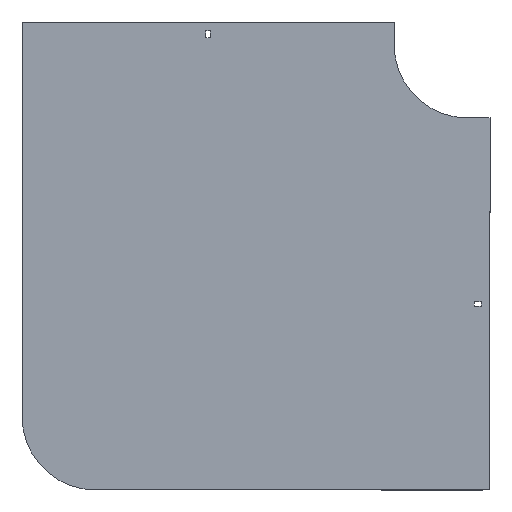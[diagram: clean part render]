
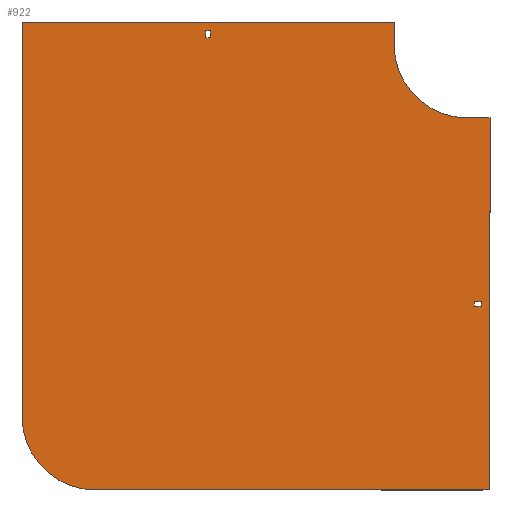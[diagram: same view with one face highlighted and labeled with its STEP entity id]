
A CAD part, front view. The second image highlights one B-rep face of the part: STEP entity #922.
In plain terms, the highlighted planar face has unit normal (0, -1, 0).
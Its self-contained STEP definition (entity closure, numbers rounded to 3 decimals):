
#38 = ORIENTED_EDGE ( 'NONE', *, *, #1521, .F. ) ;
#41 = FACE_BOUND ( 'NONE', #1241, .T. ) ;
#52 = DIRECTION ( 'NONE',  ( 1., 0., 0. ) ) ;
#53 = VECTOR ( 'NONE', #1593, 1000. ) ;
#62 = DIRECTION ( 'NONE',  ( 1., 0., 0. ) ) ;
#82 = AXIS2_PLACEMENT_3D ( 'NONE', #1418, #337, #828 ) ;
#103 = EDGE_CURVE ( 'NONE', #569, #1319, #1432, .T. ) ;
#109 = DIRECTION ( 'NONE',  ( -1., 0., 0. ) ) ;
#128 = CARTESIAN_POINT ( 'NONE',  ( 18., 0., -355.25 ) ) ;
#147 = VECTOR ( 'NONE', #52, 1000. ) ;
#156 = ORIENTED_EDGE ( 'NONE', *, *, #1800, .F. ) ;
#191 = CARTESIAN_POINT ( 'NONE',  ( 9., 0., -348.75 ) ) ;
#199 = LINE ( 'NONE', #1882, #838 ) ;
#211 = VECTOR ( 'NONE', #1537, 1000. ) ;
#214 = CARTESIAN_POINT ( 'NONE',  ( 9., 0., -355.25 ) ) ;
#221 = VERTEX_POINT ( 'NONE', #300 ) ;
#235 = DIRECTION ( 'NONE',  ( 0., 0., 1. ) ) ;
#246 = ORIENTED_EDGE ( 'NONE', *, *, #1692, .F. ) ;
#249 = DIRECTION ( 'NONE',  ( 0., 0., -1. ) ) ;
#251 = LINE ( 'NONE', #1019, #868 ) ;
#256 = CARTESIAN_POINT ( 'NONE',  ( 0., 0., 0. ) ) ;
#286 = CARTESIAN_POINT ( 'NONE',  ( -100., 0., 30. ) ) ;
#298 = ORIENTED_EDGE ( 'NONE', *, *, #992, .F. ) ;
#300 = CARTESIAN_POINT ( 'NONE',  ( -604., 0., -504. ) ) ;
#304 = DIRECTION ( 'NONE',  ( 0., 0., -1. ) ) ;
#305 = EDGE_CURVE ( 'NONE', #1834, #435, #341, .T. ) ;
#332 = ORIENTED_EDGE ( 'NONE', *, *, #1098, .T. ) ;
#337 = DIRECTION ( 'NONE',  ( 0., -1., 0. ) ) ;
#341 = LINE ( 'NONE', #191, #1745 ) ;
#342 = CARTESIAN_POINT ( 'NONE',  ( -355.25, 0., 18. ) ) ;
#368 = AXIS2_PLACEMENT_3D ( 'NONE', #256, #1471, #249 ) ;
#417 = LINE ( 'NONE', #859, #812 ) ;
#432 = VECTOR ( 'NONE', #1027, 1000. ) ;
#435 = VERTEX_POINT ( 'NONE', #882 ) ;
#485 = CARTESIAN_POINT ( 'NONE',  ( -604., 0., -504. ) ) ;
#505 = DIRECTION ( 'NONE',  ( 0., 1., 0. ) ) ;
#518 = LINE ( 'NONE', #214, #211 ) ;
#546 = DIRECTION ( 'NONE',  ( 0., 0., 1. ) ) ;
#560 = CARTESIAN_POINT ( 'NONE',  ( -348.75, 0., 9. ) ) ;
#569 = VERTEX_POINT ( 'NONE', #981 ) ;
#586 = CIRCLE ( 'NONE', #368, 100. ) ;
#587 = LINE ( 'NONE', #919, #681 ) ;
#639 = CARTESIAN_POINT ( 'NONE',  ( -355.25, 0., 9. ) ) ;
#640 = ORIENTED_EDGE ( 'NONE', *, *, #1664, .F. ) ;
#661 = DIRECTION ( 'NONE',  ( -1., 0., 0. ) ) ;
#667 = DIRECTION ( 'NONE',  ( 0., 0., 1. ) ) ;
#674 = EDGE_CURVE ( 'NONE', #1194, #1834, #1900, .T. ) ;
#681 = VECTOR ( 'NONE', #1363, 1000. ) ;
#692 = VERTEX_POINT ( 'NONE', #1930 ) ;
#709 = VECTOR ( 'NONE', #546, 1000. ) ;
#722 = DIRECTION ( 'NONE',  ( 1., 0., 0. ) ) ;
#739 = CARTESIAN_POINT ( 'NONE',  ( -355.25, 0., 18. ) ) ;
#742 = CARTESIAN_POINT ( 'NONE',  ( -348.75, 0., 9. ) ) ;
#789 = LINE ( 'NONE', #342, #1750 ) ;
#801 = LINE ( 'NONE', #1401, #147 ) ;
#809 = EDGE_CURVE ( 'NONE', #1678, #1519, #587, .T. ) ;
#812 = VECTOR ( 'NONE', #722, 1000. ) ;
#828 = DIRECTION ( 'NONE',  ( 0., 0., -1. ) ) ;
#838 = VECTOR ( 'NONE', #235, 1000. ) ;
#841 = DIRECTION ( 'NONE',  ( 0., 0., -1. ) ) ;
#849 = ORIENTED_EDGE ( 'NONE', *, *, #809, .F. ) ;
#859 = CARTESIAN_POINT ( 'NONE',  ( 0., 0., -100. ) ) ;
#868 = VECTOR ( 'NONE', #109, 1000. ) ;
#882 = CARTESIAN_POINT ( 'NONE',  ( 9., 0., -348.75 ) ) ;
#898 = CARTESIAN_POINT ( 'NONE',  ( -504., 0., -504. ) ) ;
#919 = CARTESIAN_POINT ( 'NONE',  ( 30., 0., -604. ) ) ;
#922 = ADVANCED_FACE ( 'NONE', ( #41, #1428, #1384 ), #1394, .T. ) ;
#938 = CARTESIAN_POINT ( 'NONE',  ( 18., 0., -348.75 ) ) ;
#951 = CARTESIAN_POINT ( 'NONE',  ( 9., 0., -355.25 ) ) ;
#954 = EDGE_CURVE ( 'NONE', #1912, #1645, #199, .T. ) ;
#981 = CARTESIAN_POINT ( 'NONE',  ( -348.75, 0., 18. ) ) ;
#992 = EDGE_CURVE ( 'NONE', #1792, #1194, #518, .T. ) ;
#999 = VERTEX_POINT ( 'NONE', #1728 ) ;
#1010 = CARTESIAN_POINT ( 'NONE',  ( 30., 0., -100. ) ) ;
#1019 = CARTESIAN_POINT ( 'NONE',  ( -355.25, 0., 9. ) ) ;
#1027 = DIRECTION ( 'NONE',  ( 0., 0., -1. ) ) ;
#1032 = ORIENTED_EDGE ( 'NONE', *, *, #305, .F. ) ;
#1050 = ORIENTED_EDGE ( 'NONE', *, *, #103, .T. ) ;
#1065 = ORIENTED_EDGE ( 'NONE', *, *, #1546, .F. ) ;
#1070 = ORIENTED_EDGE ( 'NONE', *, *, #1383, .F. ) ;
#1098 = EDGE_CURVE ( 'NONE', #1319, #1912, #251, .T. ) ;
#1102 = VERTEX_POINT ( 'NONE', #1316 ) ;
#1119 = LINE ( 'NONE', #485, #1283 ) ;
#1153 = ORIENTED_EDGE ( 'NONE', *, *, #954, .T. ) ;
#1156 = EDGE_CURVE ( 'NONE', #692, #1826, #417, .T. ) ;
#1181 = CARTESIAN_POINT ( 'NONE',  ( 30., 0., -604. ) ) ;
#1194 = VERTEX_POINT ( 'NONE', #128 ) ;
#1198 = EDGE_CURVE ( 'NONE', #1294, #1102, #1948, .T. ) ;
#1202 = ORIENTED_EDGE ( 'NONE', *, *, #674, .F. ) ;
#1221 = DIRECTION ( 'NONE',  ( 0., 0., 1. ) ) ;
#1241 = EDGE_LOOP ( 'NONE', ( #1153, #1625, #1050, #332 ) ) ;
#1283 = VECTOR ( 'NONE', #667, 1000. ) ;
#1286 = AXIS2_PLACEMENT_3D ( 'NONE', #898, #505, #1221 ) ;
#1294 = VERTEX_POINT ( 'NONE', #286 ) ;
#1316 = CARTESIAN_POINT ( 'NONE',  ( -100., 0., 0. ) ) ;
#1319 = VERTEX_POINT ( 'NONE', #742 ) ;
#1363 = DIRECTION ( 'NONE',  ( -1., 0., 0. ) ) ;
#1383 = EDGE_CURVE ( 'NONE', #221, #999, #1119, .T. ) ;
#1384 = FACE_BOUND ( 'NONE', #1423, .T. ) ;
#1394 = PLANE ( 'NONE',  #82 ) ;
#1401 = CARTESIAN_POINT ( 'NONE',  ( -604., 0., 30. ) ) ;
#1418 = CARTESIAN_POINT ( 'NONE',  ( 0., 0., 0. ) ) ;
#1423 = EDGE_LOOP ( 'NONE', ( #1202, #298, #640, #1032 ) ) ;
#1428 = FACE_OUTER_BOUND ( 'NONE', #1783, .T. ) ;
#1432 = LINE ( 'NONE', #560, #1490 ) ;
#1471 = DIRECTION ( 'NONE',  ( 0., -1., 0. ) ) ;
#1473 = CARTESIAN_POINT ( 'NONE',  ( 18., 0., -355.25 ) ) ;
#1490 = VECTOR ( 'NONE', #841, 1000. ) ;
#1505 = ORIENTED_EDGE ( 'NONE', *, *, #1156, .F. ) ;
#1511 = CARTESIAN_POINT ( 'NONE',  ( 9., 0., -355.25 ) ) ;
#1512 = CARTESIAN_POINT ( 'NONE',  ( -100., 0., 30. ) ) ;
#1519 = VERTEX_POINT ( 'NONE', #1926 ) ;
#1521 = EDGE_CURVE ( 'NONE', #1826, #1678, #1906, .T. ) ;
#1537 = DIRECTION ( 'NONE',  ( 1., 0., 0. ) ) ;
#1546 = EDGE_CURVE ( 'NONE', #1102, #692, #586, .T. ) ;
#1554 = ORIENTED_EDGE ( 'NONE', *, *, #1198, .F. ) ;
#1593 = DIRECTION ( 'NONE',  ( 0., 0., -1. ) ) ;
#1625 = ORIENTED_EDGE ( 'NONE', *, *, #1857, .T. ) ;
#1639 = LINE ( 'NONE', #1511, #432 ) ;
#1645 = VERTEX_POINT ( 'NONE', #739 ) ;
#1664 = EDGE_CURVE ( 'NONE', #435, #1792, #1639, .T. ) ;
#1678 = VERTEX_POINT ( 'NONE', #1181 ) ;
#1692 = EDGE_CURVE ( 'NONE', #1519, #221, #1847, .T. ) ;
#1728 = CARTESIAN_POINT ( 'NONE',  ( -604., 0., 30. ) ) ;
#1745 = VECTOR ( 'NONE', #661, 1000. ) ;
#1750 = VECTOR ( 'NONE', #62, 1000. ) ;
#1783 = EDGE_LOOP ( 'NONE', ( #156, #1070, #246, #849, #38, #1505, #1065, #1554 ) ) ;
#1792 = VERTEX_POINT ( 'NONE', #951 ) ;
#1800 = EDGE_CURVE ( 'NONE', #999, #1294, #801, .T. ) ;
#1826 = VERTEX_POINT ( 'NONE', #1854 ) ;
#1834 = VERTEX_POINT ( 'NONE', #938 ) ;
#1847 = CIRCLE ( 'NONE', #1286, 100. ) ;
#1854 = CARTESIAN_POINT ( 'NONE',  ( 30., 0., -100. ) ) ;
#1857 = EDGE_CURVE ( 'NONE', #1645, #569, #789, .T. ) ;
#1880 = VECTOR ( 'NONE', #304, 1000. ) ;
#1882 = CARTESIAN_POINT ( 'NONE',  ( -355.25, 0., 9. ) ) ;
#1900 = LINE ( 'NONE', #1473, #709 ) ;
#1906 = LINE ( 'NONE', #1010, #53 ) ;
#1912 = VERTEX_POINT ( 'NONE', #639 ) ;
#1926 = CARTESIAN_POINT ( 'NONE',  ( -504., 0., -604. ) ) ;
#1930 = CARTESIAN_POINT ( 'NONE',  ( 0., 0., -100. ) ) ;
#1948 = LINE ( 'NONE', #1512, #1880 ) ;
